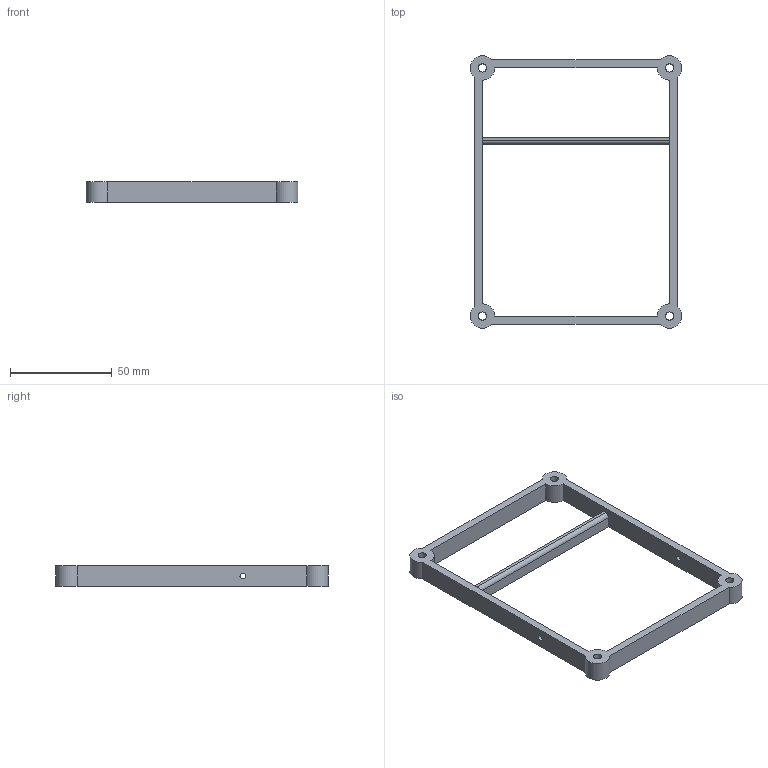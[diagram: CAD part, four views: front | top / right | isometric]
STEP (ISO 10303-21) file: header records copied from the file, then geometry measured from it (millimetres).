
FILE_DESCRIPTION(/* description */ ('STEP AP242 Edition 2','CAx-IF Rec.Pracs.---Representation and Presentation of Product Manufacturing Information (PMI)---4.0---2014-10-13','CAx-IF Rec.Pracs.---3D Tessellated Geometry---0.4---2014-09-14','2;1','CAx-IF Rec.Pracs.---User Defined Attributes---1.5---2016-08-15'),/* implementation_level */ '2;1');
FILE_NAME(/* name */ 'Part Studio 1 - shell_upper',/* time_stamp */ '2026-02-04T12:55:34Z',/* author */ (''),/* organization */ (''),/* preprocessor_version */ 'ST-DEVELOPER v20',/* originating_system */ 'ONSHAPE BY PTC INC, 1.210',/* authorisation */ ' ');
FILE_SCHEMA (('AP242_MANAGED_MODEL_BASED_3D_ENGINEERING_MIM_LF { 1 0 10303 442 3 1 4 }'));
Length unit declared in the file: metre
Products named in the file (1): shell_upper
Bounding box: 104 x 134 x 10 mm (x, y, z)
Volume: 21661.7 mm3; surface area: 15197.5 mm2
Topology: 1 solids, 1 shells, 28 faces, 81 edges, 54 vertices
Faces by surface type: cylinder 15, plane 13
Full cylindrical faces by diameter (mm): 2.8 x2, 4 x4
Entity records: 959 total; most frequent: DIRECTION 163, CARTESIAN_POINT 158, ORIENTED_EDGE 150, EDGE_CURVE 75, AXIS2_PLACEMENT_3D 59, VERTEX_POINT 54, EDGE_LOOP 49, FACE_BOUND 49
